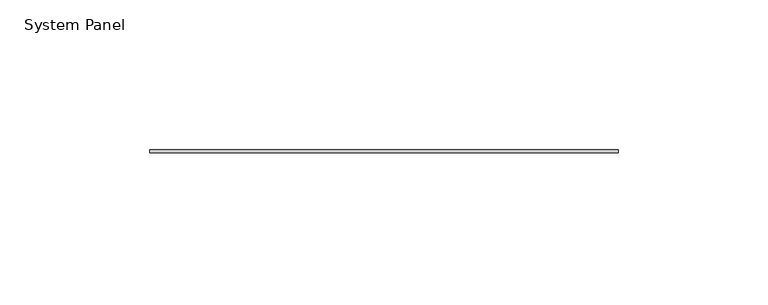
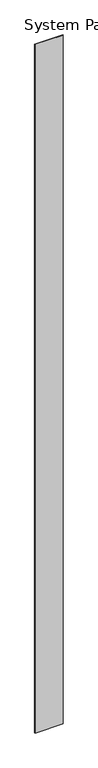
"""IFC4 building model written with IfcOpenShell, lengths in millimetres: plate geometry, System Panel : Stratco_Hiland_Tray."""

import ifcopenshell
import ifcopenshell.guid

model = None  # the IFC model being written
_history = None  # IfcOwnerHistory: only IFC2X3 demands one
_inside = {}  # id of a spatial element -> (the spatial element, [elements in it])
_under = {}  # id of a project, library or spatial element -> (it, [spatial elements below it])
_declared = {}  # id of a project -> (the project, [libraries it declares])
_typed = {}  # id of a type object -> (the type object, [elements of that type])
_made_of = {}  # id of a material, layer set ... -> (it, [elements and type objects made of it])


def new_model(schema):
    """Start an empty IFC model of exactly this schema.

    Asked for "IFC4X3", IfcOpenShell would pick the latest addendum, in which some entities
    have other attributes; the version numbers below select the first issue.
    IFC2X3 requires an IfcOwnerHistory on every rooted entity: one is made here for all.
    """
    global model, _history
    if schema == "IFC4X3":
        model = ifcopenshell.file(schema_version=(4, 3, 0, 0))
    else:
        model = ifcopenshell.file(schema=schema)
    _inside.clear()
    _under.clear()
    _declared.clear()
    _typed.clear()
    _made_of.clear()
    _history = None
    if model.schema == "IFC2X3":
        org = make("IfcOrganization", Name="unknown")
        user = make(
            "IfcPersonAndOrganization",
            ThePerson=make("IfcPerson", FamilyName="unknown"),
            TheOrganization=org,
        )
        app = make(
            "IfcApplication",
            ApplicationDeveloper=org,
            Version="unknown",
            ApplicationFullName="unknown",
            ApplicationIdentifier="unknown",
        )
        _history = make(
            "IfcOwnerHistory",
            OwningUser=user,
            OwningApplication=app,
            ChangeAction="ADDED",
            CreationDate=0,
        )
    return model


def make(cls, **values):
    """One entity of the class cls with the attributes given. An attribute that is None is left unset."""
    return model.create_entity(
        cls, **{name: value for name, value in values.items() if value is not None}
    )


def rooted(cls, **values):
    """An entity with a GlobalId (a new one), such as an element, a storey or a relation."""
    return make(cls, GlobalId=ifcopenshell.guid.new(), OwnerHistory=_history, **values)


def si_unit(unit_type, name, prefix=None):
    """IfcSIUnit, for example si_unit("LENGTHUNIT", "METRE", prefix="MILLI")."""
    return make("IfcSIUnit", UnitType=unit_type, Prefix=prefix, Name=name)


def assignment(units):
    """IfcUnitAssignment: the units of a project."""
    return None if units is None else make("IfcUnitAssignment", Units=units)


def point(xyz):
    """IfcCartesianPoint."""
    return None if xyz is None else make("IfcCartesianPoint", Coordinates=xyz)


def direction(xyz):
    """IfcDirection."""
    return None if xyz is None else make("IfcDirection", DirectionRatios=xyz)


def frame(location, z_axis=None, x_axis=None):
    """IfcAxis2Placement3D, a coordinate frame: its origin and axes. An axis left out is left unset."""
    return make(
        "IfcAxis2Placement3D",
        Location=point(location),
        Axis=direction(z_axis),
        RefDirection=direction(x_axis),
    )


def origin():
    """The frame at (0, 0, 0) with its axes left unset."""
    return frame((0.0, 0.0, 0.0))


def origin_with_axes():
    """The frame at (0, 0, 0) with the z axis (0, 0, 1) and the x axis (1, 0, 0) written out."""
    return frame((0.0, 0.0, 0.0), z_axis=(0.0, 0.0, 1.0), x_axis=(1.0, 0.0, 0.0))


def place(relative_to, where):
    """IfcLocalPlacement: puts the frame where relative to a parent placement (None: the world)."""
    return make(
        "IfcLocalPlacement", PlacementRelTo=relative_to, RelativePlacement=where
    )


def context(
    kind, dimensions, precision=None, world=None, true_north=None, identifier=None
):
    """IfcGeometricRepresentationContext, for example the 3D "Model" context."""
    return make(
        "IfcGeometricRepresentationContext",
        ContextIdentifier=identifier,
        ContextType=kind,
        CoordinateSpaceDimension=dimensions,
        Precision=precision,
        WorldCoordinateSystem=world,
        TrueNorth=true_north,
    )


def project(units=None, contexts=None):
    """IfcProject with its units and contexts."""
    return rooted(
        "IfcProject",
        Name="project",
        RepresentationContexts=contexts,
        UnitsInContext=assignment(units),
    )


def spatial(cls, under=None, at=None, **own):
    """A site, building, storey or space (cls), placed at a placement, below another one or the project."""
    s = rooted(cls, ObjectPlacement=at, **own)
    if under is not None:
        _under.setdefault(under.id(), (under, []))[1].append(s)
    return s


def polyline(points):
    """IfcPolyline through the points."""
    return make("IfcPolyline", Points=[point(p) for p in points])


def outline(outer, holes=None, kind="AREA"):
    """IfcArbitraryClosedProfileDef: a profile drawn as a closed curve; with holes, ...WithVoids."""
    if holes is None:
        return make("IfcArbitraryClosedProfileDef", ProfileType=kind, OuterCurve=outer)
    return make(
        "IfcArbitraryProfileDefWithVoids",
        ProfileType=kind,
        OuterCurve=outer,
        InnerCurves=holes,
    )


def extrude(swept, where, along, depth):
    """IfcExtrudedAreaSolid: the profile swept, set in the frame where, extruded along a direction by depth."""
    return make(
        "IfcExtrudedAreaSolid",
        SweptArea=swept,
        Position=where,
        ExtrudedDirection=direction(along),
        Depth=depth,
    )


def shape(context_of_items, identifier, shape_type, items):
    """IfcShapeRepresentation: the items that make up one representation, for example the "Body"."""
    return make(
        "IfcShapeRepresentation",
        ContextOfItems=context_of_items,
        RepresentationIdentifier=identifier,
        RepresentationType=shape_type,
        Items=items,
    )


def source(mapping_origin, context_of_items, identifier, shape_type, items):
    """IfcRepresentationMap: a shape defined once, which mapped items show again and again."""
    return make(
        "IfcRepresentationMap",
        MappingOrigin=mapping_origin,
        MappedRepresentation=shape(context_of_items, identifier, shape_type, items),
    )


def transform(
    local_origin,
    x_axis=None,
    y_axis=None,
    z_axis=None,
    scale=None,
    scale2=None,
    scale3=None,
    uniform=True,
):
    """IfcCartesianTransformationOperator3D, or its non-uniform kind. x_axis, y_axis, z_axis: its Axis1, 2, 3."""
    if uniform:
        return make(
            "IfcCartesianTransformationOperator3D",
            Axis1=direction(x_axis),
            Axis2=direction(y_axis),
            LocalOrigin=point(local_origin),
            Scale=scale,
            Axis3=direction(z_axis),
        )
    return make(
        "IfcCartesianTransformationOperator3DnonUniform",
        Axis1=direction(x_axis),
        Axis2=direction(y_axis),
        LocalOrigin=point(local_origin),
        Scale=scale,
        Axis3=direction(z_axis),
        Scale2=scale2,
        Scale3=scale3,
    )


def mapped(mapping_source, mapping_target):
    """IfcMappedItem: shows the shape of a source again, moved by a transform."""
    return make(
        "IfcMappedItem", MappingSource=mapping_source, MappingTarget=mapping_target
    )


def made_of(thing, what):
    """Note that an element or type object is made of a material, layer set ...; save() writes the relation."""
    if what is not None:
        _made_of.setdefault(what.id(), (what, []))[1].append(thing)
    return thing


def element(
    cls,
    number,
    at=None,
    inside=None,
    cuts=None,
    type_object=None,
    material=None,
    context=None,
    identifier="Body",
    shape_type=None,
    held_by="IfcProductDefinitionShape",
    body=None,
    shapes=None,
    **own,
):
    """One element of the class cls, such as IfcWall. Its Tag is "e" and its number.

    at: its placement. inside: the storey or other place that contains it. cuts: it is an
    opening in that element (IfcRelVoidsElement). A single representation is given by context,
    identifier, shape_type and body (its items); several are given by shapes. held_by: the class
    of the entity that holds the representations. save() writes the other relations.
    """
    e = rooted(cls, Tag="e%d" % number, ObjectPlacement=at, **own)
    if body is not None:
        shapes = [shape(context, identifier, shape_type, body)]
    if shapes is not None:
        e.Representation = make(held_by, Representations=shapes)
    if inside is not None:
        _inside.setdefault(inside.id(), (inside, []))[1].append(e)
    if cuts is not None:
        rooted(
            "IfcRelVoidsElement", RelatingBuildingElement=cuts, RelatedOpeningElement=e
        )
    if type_object is not None:
        _typed.setdefault(type_object.id(), (type_object, []))[1].append(e)
    return made_of(e, material)


def aggregate(whole, parts):
    """IfcRelAggregates: a whole, such as a stair, and the parts it consists of."""
    return rooted("IfcRelAggregates", RelatingObject=whole, RelatedObjects=parts)


def save(model, path):
    """Write the relations noted so far, then the file.

    IfcRelAggregates (storeys below a building ...), IfcRelContainedInSpatialStructure (elements
    in a storey), IfcRelDefinesByType, IfcRelAssociatesMaterial and IfcRelDeclares: one each for
    every whole, place, type object, material and project.
    """
    for whole, parts in _under.values():
        aggregate(whole, parts)
    for where, things in _inside.values():
        rooted(
            "IfcRelContainedInSpatialStructure",
            RelatedElements=things,
            RelatingStructure=where,
        )
    for kind, things in _typed.values():
        rooted("IfcRelDefinesByType", RelatedObjects=things, RelatingType=kind)
    for what, things in _made_of.values():
        rooted("IfcRelAssociatesMaterial", RelatedObjects=things, RelatingMaterial=what)
    for by, libraries in _declared.values():
        rooted("IfcRelDeclares", RelatingContext=by, RelatedDefinitions=libraries)
    model.write(path)


def system_panel_b35336ca(model_context):
    return source(origin(), model_context, "Body", "SweptSolid", [
        extrude(outline(polyline([(78.1834018, 2.5), (-78.1834018, 2.5), (-78.1834018, 3.5), (78.1834018, 3.5), (78.1834018, 2.5)])), origin_with_axes(), (0.0, 0.0, 1.0), 4000.0),
    ])


if __name__ == "__main__":
    model = new_model("IFC4")
    model_context = context("Model", 3, world=origin())
    ifc_project = project(units=[si_unit("LENGTHUNIT", "METRE", prefix="MILLI")], contexts=[model_context])
    site = spatial("IfcSite", under=ifc_project)
    building = spatial("IfcBuilding", under=site)
    placement = place(None, origin())
    system_panel_shape = system_panel_b35336ca(model_context)
    element("IfcPlate", 1, ObjectType="System Panel : Stratco_Hiland_Tray", at=placement, inside=building, context=model_context, shape_type="MappedRepresentation", body=[
        mapped(system_panel_shape, transform((0.0, 0.0, 0.0), x_axis=(1.0, 0.0, 0.0), y_axis=(0.0, 1.0, 0.0), z_axis=(0.0, 0.0, 1.0))),
    ])
    save(model, "model.ifc")
